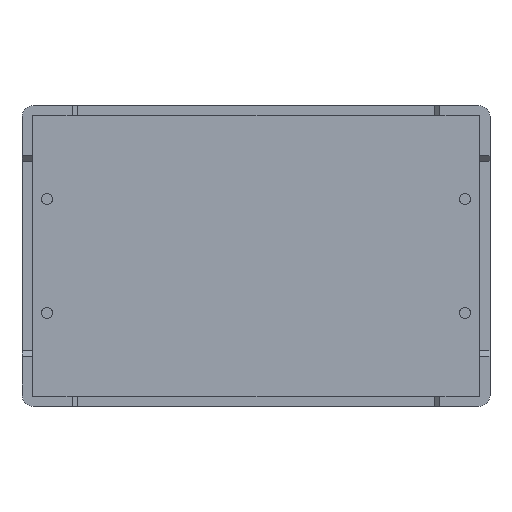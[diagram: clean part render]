
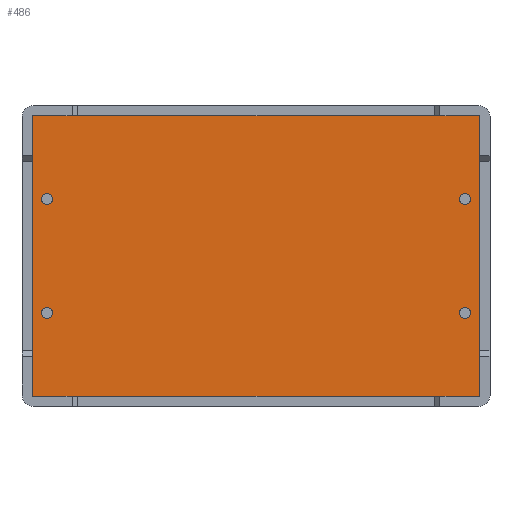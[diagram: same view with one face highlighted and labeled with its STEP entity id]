
A CAD part, front view. The second image highlights one B-rep face of the part: STEP entity #486.
In plain terms, the highlighted planar face has unit normal (0, -1, 0).
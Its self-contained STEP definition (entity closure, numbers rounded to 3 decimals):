
#22 = EDGE_CURVE ( 'NONE', #1257, #3633, #1240, .T. ) ;
#25 = AXIS2_PLACEMENT_3D ( 'NONE', #3178, #3177, #3168 ) ;
#44 = CARTESIAN_POINT ( 'NONE',  ( 20., 1., -12.6 ) ) ;
#60 = EDGE_CURVE ( 'NONE', #3871, #1935, #1054, .T. ) ;
#87 = EDGE_CURVE ( 'NONE', #2305, #3355, #1000, .T. ) ;
#132 = CARTESIAN_POINT ( 'NONE',  ( -20., 1., 12.6 ) ) ;
#147 = EDGE_CURVE ( 'NONE', #3082, #3218, #700, .T. ) ;
#166 = EDGE_CURVE ( 'NONE', #4136, #3677, #636, .T. ) ;
#174 = CARTESIAN_POINT ( 'NONE',  ( 20.1, 1., -12.5 ) ) ;
#178 = EDGE_CURVE ( 'NONE', #4223, #2075, #607, .T. ) ;
#179 = AXIS2_PLACEMENT_3D ( 'NONE', #3213, #1133, #3500 ) ;
#185 = EDGE_CURVE ( 'NONE', #3947, #1238, #551, .T. ) ;
#190 = EDGE_CURVE ( 'NONE', #3103, #3328, #558, .T. ) ;
#196 = EDGE_CURVE ( 'NONE', #3218, #2305, #517, .T. ) ;
#202 = EDGE_CURVE ( 'NONE', #3355, #3871, #506, .T. ) ;
#213 = EDGE_CURVE ( 'NONE', #1935, #1257, #498, .T. ) ;
#218 = EDGE_CURVE ( 'NONE', #3633, #3082, #513, .T. ) ;
#291 = AXIS2_PLACEMENT_3D ( 'NONE', #3149, #3142, #3141 ) ;
#486 = ADVANCED_FACE ( 'NONE', ( #1660, #1875, #1865, #2294, #1846 ), #2864, .T. ) ;
#498 = CIRCLE ( 'NONE', #622, 0.1 ) ;
#506 = CIRCLE ( 'NONE', #291, 0.1 ) ;
#513 = CIRCLE ( 'NONE', #956, 0.1 ) ;
#517 = CIRCLE ( 'NONE', #25, 0.1 ) ;
#551 = CIRCLE ( 'NONE', #4147, 0.5 ) ;
#558 = CIRCLE ( 'NONE', #4335, 0.5 ) ;
#607 = CIRCLE ( 'NONE', #3962, 0.5 ) ;
#622 = AXIS2_PLACEMENT_3D ( 'NONE', #3066, #3056, #3055 ) ;
#625 = DIRECTION ( 'NONE',  ( 0., 0., -1. ) ) ;
#636 = CIRCLE ( 'NONE', #3762, 0.5 ) ;
#648 = CIRCLE ( 'NONE', #179, 0.5 ) ;
#657 = VECTOR ( 'NONE', #625, 1000. ) ;
#700 = LINE ( 'NONE', #1125, #657 ) ;
#767 = CARTESIAN_POINT ( 'NONE',  ( -18.75, 1., -5.1 ) ) ;
#918 = VECTOR ( 'NONE', #2278, 1000. ) ;
#956 = AXIS2_PLACEMENT_3D ( 'NONE', #3013, #3000, #2980 ) ;
#1000 = LINE ( 'NONE', #2184, #918 ) ;
#1019 = VECTOR ( 'NONE', #2311, 1000. ) ;
#1054 = LINE ( 'NONE', #2414, #1019 ) ;
#1125 = CARTESIAN_POINT ( 'NONE',  ( -20.1, 1., 12.6 ) ) ;
#1133 = DIRECTION ( 'NONE',  ( 0., -1., 0. ) ) ;
#1174 = VECTOR ( 'NONE', #3268, 1000. ) ;
#1211 = DIRECTION ( 'NONE',  ( 0., 0., -1. ) ) ;
#1238 = VERTEX_POINT ( 'NONE', #3119 ) ;
#1240 = LINE ( 'NONE', #3163, #1174 ) ;
#1257 = VERTEX_POINT ( 'NONE', #2483 ) ;
#1329 = EDGE_CURVE ( 'NONE', #3677, #4136, #4491, .T. ) ;
#1522 = CARTESIAN_POINT ( 'NONE',  ( 18.75, 1., 5.1 ) ) ;
#1579 = EDGE_CURVE ( 'NONE', #3328, #3103, #3853, .T. ) ;
#1660 = FACE_BOUND ( 'NONE', #1955, .T. ) ;
#1754 = EDGE_LOOP ( 'NONE', ( #2967, #2971, #3009, #3033, #3039, #3049, #3063, #3071 ) ) ;
#1839 = CARTESIAN_POINT ( 'NONE',  ( -18.75, 1., 5.1 ) ) ;
#1846 = FACE_OUTER_BOUND ( 'NONE', #1754, .T. ) ;
#1864 = DIRECTION ( 'NONE',  ( 0., 0., -1. ) ) ;
#1865 = FACE_BOUND ( 'NONE', #1993, .T. ) ;
#1875 = FACE_BOUND ( 'NONE', #1899, .T. ) ;
#1899 = EDGE_LOOP ( 'NONE', ( #2751, #2764 ) ) ;
#1935 = VERTEX_POINT ( 'NONE', #2350 ) ;
#1955 = EDGE_LOOP ( 'NONE', ( #2702, #2713 ) ) ;
#1993 = EDGE_LOOP ( 'NONE', ( #2782, #2821 ) ) ;
#2075 = VERTEX_POINT ( 'NONE', #3650 ) ;
#2184 = CARTESIAN_POINT ( 'NONE',  ( -20.1, 1., -12.6 ) ) ;
#2197 = DIRECTION ( 'NONE',  ( 0., 0., -1. ) ) ;
#2278 = DIRECTION ( 'NONE',  ( 1., 0., 0. ) ) ;
#2294 = FACE_BOUND ( 'NONE', #2355, .T. ) ;
#2305 = VERTEX_POINT ( 'NONE', #3391 ) ;
#2311 = DIRECTION ( 'NONE',  ( 0., 0., 1. ) ) ;
#2350 = CARTESIAN_POINT ( 'NONE',  ( 20.1, 1., 12.5 ) ) ;
#2355 = EDGE_LOOP ( 'NONE', ( #2886, #2920 ) ) ;
#2361 = CARTESIAN_POINT ( 'NONE',  ( -18.75, 1., -5.6 ) ) ;
#2384 = DIRECTION ( 'NONE',  ( 0., 0., -1. ) ) ;
#2414 = CARTESIAN_POINT ( 'NONE',  ( 20.1, 1., -12.6 ) ) ;
#2415 = DIRECTION ( 'NONE',  ( 0., -1., 0. ) ) ;
#2424 = CARTESIAN_POINT ( 'NONE',  ( 0., 1., 0. ) ) ;
#2483 = CARTESIAN_POINT ( 'NONE',  ( 20., 1., 12.6 ) ) ;
#2585 = CARTESIAN_POINT ( 'NONE',  ( -18.75, 1., 5.6 ) ) ;
#2702 = ORIENTED_EDGE ( 'NONE', *, *, #166, .F. ) ;
#2713 = ORIENTED_EDGE ( 'NONE', *, *, #1329, .F. ) ;
#2751 = ORIENTED_EDGE ( 'NONE', *, *, #178, .F. ) ;
#2764 = ORIENTED_EDGE ( 'NONE', *, *, #2795, .F. ) ;
#2771 = EDGE_CURVE ( 'NONE', #1238, #3947, #4179, .T. ) ;
#2782 = ORIENTED_EDGE ( 'NONE', *, *, #185, .F. ) ;
#2795 = EDGE_CURVE ( 'NONE', #2075, #4223, #648, .T. ) ;
#2821 = ORIENTED_EDGE ( 'NONE', *, *, #2771, .F. ) ;
#2864 = PLANE ( 'NONE',  #4177 ) ;
#2886 = ORIENTED_EDGE ( 'NONE', *, *, #190, .F. ) ;
#2893 = AXIS2_PLACEMENT_3D ( 'NONE', #1522, #3794, #1864 ) ;
#2920 = ORIENTED_EDGE ( 'NONE', *, *, #1579, .F. ) ;
#2967 = ORIENTED_EDGE ( 'NONE', *, *, #147, .T. ) ;
#2971 = ORIENTED_EDGE ( 'NONE', *, *, #196, .T. ) ;
#2973 = CARTESIAN_POINT ( 'NONE',  ( 18.75, 1., 5.6 ) ) ;
#2980 = DIRECTION ( 'NONE',  ( 0., 0., -1. ) ) ;
#3000 = DIRECTION ( 'NONE',  ( 0., -1., 0. ) ) ;
#3009 = ORIENTED_EDGE ( 'NONE', *, *, #87, .T. ) ;
#3013 = CARTESIAN_POINT ( 'NONE',  ( -20., 1., 12.5 ) ) ;
#3033 = ORIENTED_EDGE ( 'NONE', *, *, #202, .T. ) ;
#3039 = ORIENTED_EDGE ( 'NONE', *, *, #60, .T. ) ;
#3049 = ORIENTED_EDGE ( 'NONE', *, *, #213, .T. ) ;
#3055 = DIRECTION ( 'NONE',  ( 0., 0., -1. ) ) ;
#3056 = DIRECTION ( 'NONE',  ( 0., -1., 0. ) ) ;
#3063 = ORIENTED_EDGE ( 'NONE', *, *, #22, .T. ) ;
#3066 = CARTESIAN_POINT ( 'NONE',  ( 20., 1., 12.5 ) ) ;
#3071 = ORIENTED_EDGE ( 'NONE', *, *, #218, .T. ) ;
#3082 = VERTEX_POINT ( 'NONE', #4418 ) ;
#3103 = VERTEX_POINT ( 'NONE', #4144 ) ;
#3119 = CARTESIAN_POINT ( 'NONE',  ( -18.75, 1., 4.6 ) ) ;
#3141 = DIRECTION ( 'NONE',  ( 0., 0., -1. ) ) ;
#3142 = DIRECTION ( 'NONE',  ( 0., -1., 0. ) ) ;
#3149 = CARTESIAN_POINT ( 'NONE',  ( 20., 1., -12.5 ) ) ;
#3163 = CARTESIAN_POINT ( 'NONE',  ( 20.1, 1., 12.6 ) ) ;
#3168 = DIRECTION ( 'NONE',  ( 0., 0., -1. ) ) ;
#3177 = DIRECTION ( 'NONE',  ( 0., -1., 0. ) ) ;
#3178 = CARTESIAN_POINT ( 'NONE',  ( -20., 1., -12.5 ) ) ;
#3197 = DIRECTION ( 'NONE',  ( 0., 0., -1. ) ) ;
#3203 = DIRECTION ( 'NONE',  ( 0., -1., 0. ) ) ;
#3213 = CARTESIAN_POINT ( 'NONE',  ( 18.75, 1., -5.1 ) ) ;
#3214 = CARTESIAN_POINT ( 'NONE',  ( -18.75, 1., -5.1 ) ) ;
#3218 = VERTEX_POINT ( 'NONE', #3320 ) ;
#3258 = DIRECTION ( 'NONE',  ( 0., 0., -1. ) ) ;
#3268 = DIRECTION ( 'NONE',  ( -1., 0., 0. ) ) ;
#3271 = DIRECTION ( 'NONE',  ( 0., -1., 0. ) ) ;
#3289 = DIRECTION ( 'NONE',  ( 0., -1., 0. ) ) ;
#3295 = AXIS2_PLACEMENT_3D ( 'NONE', #767, #3271, #1211 ) ;
#3299 = CARTESIAN_POINT ( 'NONE',  ( -18.75, 1., 5.1 ) ) ;
#3320 = CARTESIAN_POINT ( 'NONE',  ( -20.1, 1., -12.5 ) ) ;
#3328 = VERTEX_POINT ( 'NONE', #2361 ) ;
#3338 = DIRECTION ( 'NONE',  ( 0., 0., -1. ) ) ;
#3347 = DIRECTION ( 'NONE',  ( 0., -1., 0. ) ) ;
#3355 = VERTEX_POINT ( 'NONE', #44 ) ;
#3371 = CARTESIAN_POINT ( 'NONE',  ( 18.75, 1., -5.1 ) ) ;
#3391 = CARTESIAN_POINT ( 'NONE',  ( -20., 1., -12.6 ) ) ;
#3395 = DIRECTION ( 'NONE',  ( 0., 0., -1. ) ) ;
#3408 = DIRECTION ( 'NONE',  ( 0., -1., 0. ) ) ;
#3431 = CARTESIAN_POINT ( 'NONE',  ( 18.75, 1., 5.1 ) ) ;
#3500 = DIRECTION ( 'NONE',  ( 0., 0., -1. ) ) ;
#3633 = VERTEX_POINT ( 'NONE', #132 ) ;
#3650 = CARTESIAN_POINT ( 'NONE',  ( 18.75, 1., -5.6 ) ) ;
#3677 = VERTEX_POINT ( 'NONE', #4325 ) ;
#3762 = AXIS2_PLACEMENT_3D ( 'NONE', #3431, #3408, #3395 ) ;
#3794 = DIRECTION ( 'NONE',  ( 0., -1., 0. ) ) ;
#3849 = CARTESIAN_POINT ( 'NONE',  ( 18.75, 1., -4.6 ) ) ;
#3853 = CIRCLE ( 'NONE', #3295, 0.5 ) ;
#3871 = VERTEX_POINT ( 'NONE', #174 ) ;
#3947 = VERTEX_POINT ( 'NONE', #2585 ) ;
#3962 = AXIS2_PLACEMENT_3D ( 'NONE', #3371, #3347, #3338 ) ;
#4078 = DIRECTION ( 'NONE',  ( 0., -1., 0. ) ) ;
#4136 = VERTEX_POINT ( 'NONE', #2973 ) ;
#4144 = CARTESIAN_POINT ( 'NONE',  ( -18.75, 1., -4.6 ) ) ;
#4147 = AXIS2_PLACEMENT_3D ( 'NONE', #3299, #3289, #3258 ) ;
#4177 = AXIS2_PLACEMENT_3D ( 'NONE', #2424, #2415, #2384 ) ;
#4179 = CIRCLE ( 'NONE', #4432, 0.5 ) ;
#4223 = VERTEX_POINT ( 'NONE', #3849 ) ;
#4325 = CARTESIAN_POINT ( 'NONE',  ( 18.75, 1., 4.6 ) ) ;
#4335 = AXIS2_PLACEMENT_3D ( 'NONE', #3214, #3203, #3197 ) ;
#4418 = CARTESIAN_POINT ( 'NONE',  ( -20.1, 1., 12.5 ) ) ;
#4432 = AXIS2_PLACEMENT_3D ( 'NONE', #1839, #4078, #2197 ) ;
#4491 = CIRCLE ( 'NONE', #2893, 0.5 ) ;
